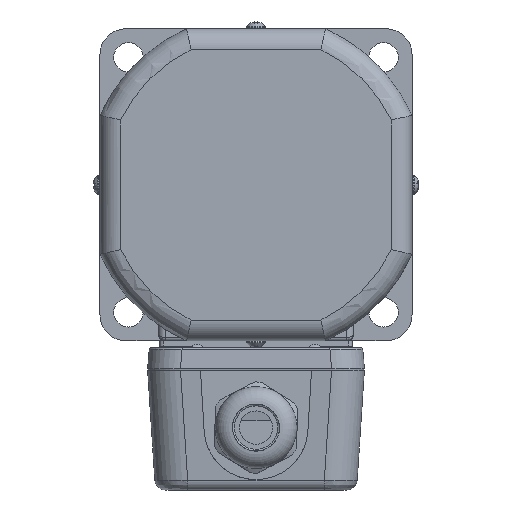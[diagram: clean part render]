
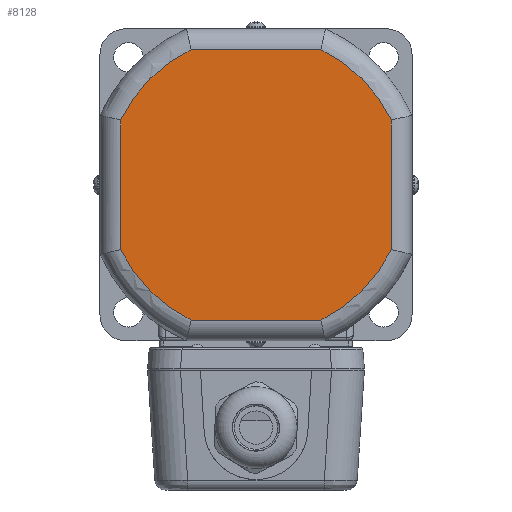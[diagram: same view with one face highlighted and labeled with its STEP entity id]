
A CAD part, left-side view. The second image highlights one B-rep face of the part: STEP entity #8128.
In plain terms, the highlighted planar face has unit normal (-1, 0, 0).
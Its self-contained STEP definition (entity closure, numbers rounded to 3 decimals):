
#789=FACE_OUTER_BOUND('',#1332,.T.);
#1332=EDGE_LOOP('',(#6591,#6592,#6593,#6594,#6595,#6596,#6597,#6598));
#1838=CIRCLE('',#8823,43.25);
#1839=CIRCLE('',#8824,43.25);
#1840=CIRCLE('',#8825,43.25);
#1841=CIRCLE('',#8826,43.25);
#2346=LINE('',#15304,#2929);
#2347=LINE('',#15308,#2930);
#2348=LINE('',#15312,#2931);
#2349=LINE('',#15316,#2932);
#2929=VECTOR('',#10593,37.393);
#2930=VECTOR('',#10596,37.393);
#2931=VECTOR('',#10599,37.393);
#2932=VECTOR('',#10602,37.393);
#3643=VERTEX_POINT('',#15302);
#3644=VERTEX_POINT('',#15303);
#3645=VERTEX_POINT('',#15305);
#3646=VERTEX_POINT('',#15307);
#3647=VERTEX_POINT('',#15309);
#3648=VERTEX_POINT('',#15311);
#3649=VERTEX_POINT('',#15313);
#3650=VERTEX_POINT('',#15315);
#4660=EDGE_CURVE('',#3643,#3644,#2346,.T.);
#4661=EDGE_CURVE('',#3645,#3643,#1838,.T.);
#4662=EDGE_CURVE('',#3646,#3645,#2347,.T.);
#4663=EDGE_CURVE('',#3647,#3646,#1839,.T.);
#4664=EDGE_CURVE('',#3648,#3647,#2348,.T.);
#4665=EDGE_CURVE('',#3649,#3648,#1840,.T.);
#4666=EDGE_CURVE('',#3650,#3649,#2349,.T.);
#4667=EDGE_CURVE('',#3644,#3650,#1841,.T.);
#6591=ORIENTED_EDGE('',*,*,#4660,.F.);
#6592=ORIENTED_EDGE('',*,*,#4661,.F.);
#6593=ORIENTED_EDGE('',*,*,#4662,.F.);
#6594=ORIENTED_EDGE('',*,*,#4663,.F.);
#6595=ORIENTED_EDGE('',*,*,#4664,.F.);
#6596=ORIENTED_EDGE('',*,*,#4665,.F.);
#6597=ORIENTED_EDGE('',*,*,#4666,.F.);
#6598=ORIENTED_EDGE('',*,*,#4667,.F.);
#7260=PLANE('',#8822);
#8128=ADVANCED_FACE('',(#789),#7260,.F.);
#8822=AXIS2_PLACEMENT_3D('',#15301,#10591,#10592);
#8823=AXIS2_PLACEMENT_3D('',#15306,#10594,#10595);
#8824=AXIS2_PLACEMENT_3D('',#15310,#10597,#10598);
#8825=AXIS2_PLACEMENT_3D('',#15314,#10600,#10601);
#8826=AXIS2_PLACEMENT_3D('',#15317,#10603,#10604);
#10591=DIRECTION('center_axis',(1.,0.,0.));
#10592=DIRECTION('ref_axis',(0.,0.,-1.));
#10593=DIRECTION('',(0.,0.,1.));
#10594=DIRECTION('center_axis',(1.,0.,0.));
#10595=DIRECTION('ref_axis',(0.,0.707,-0.707));
#10596=DIRECTION('',(0.,1.,0.));
#10597=DIRECTION('center_axis',(1.,0.,0.));
#10598=DIRECTION('ref_axis',(0.,-0.707,-0.707));
#10599=DIRECTION('',(0.,0.,-1.));
#10600=DIRECTION('center_axis',(1.,0.,0.));
#10601=DIRECTION('ref_axis',(0.,-0.707,0.707));
#10602=DIRECTION('',(0.,-1.,0.));
#10603=DIRECTION('center_axis',(1.,0.,0.));
#10604=DIRECTION('ref_axis',(0.,0.707,0.707));
#15301=CARTESIAN_POINT('Origin',(-17.8,0.,
0.));
#15302=CARTESIAN_POINT('',(-17.8,39.,-18.697));
#15303=CARTESIAN_POINT('',(-17.8,39.,18.697));
#15304=CARTESIAN_POINT('',(-17.8,39.,-18.697));
#15305=CARTESIAN_POINT('',(-17.8,18.697,-39.));
#15306=CARTESIAN_POINT('Origin',(-17.8,0.,
0.));
#15307=CARTESIAN_POINT('',(-17.8,-18.697,-39.));
#15308=CARTESIAN_POINT('',(-17.8,-18.697,-39.));
#15309=CARTESIAN_POINT('',(-17.8,-39.,-18.697));
#15310=CARTESIAN_POINT('Origin',(-17.8,0.,
0.));
#15311=CARTESIAN_POINT('',(-17.8,-39.,18.697));
#15312=CARTESIAN_POINT('',(-17.8,-39.,18.697));
#15313=CARTESIAN_POINT('',(-17.8,-18.697,39.));
#15314=CARTESIAN_POINT('Origin',(-17.8,0.,
0.));
#15315=CARTESIAN_POINT('',(-17.8,18.697,39.));
#15316=CARTESIAN_POINT('',(-17.8,18.697,39.));
#15317=CARTESIAN_POINT('Origin',(-17.8,0.,
0.));
